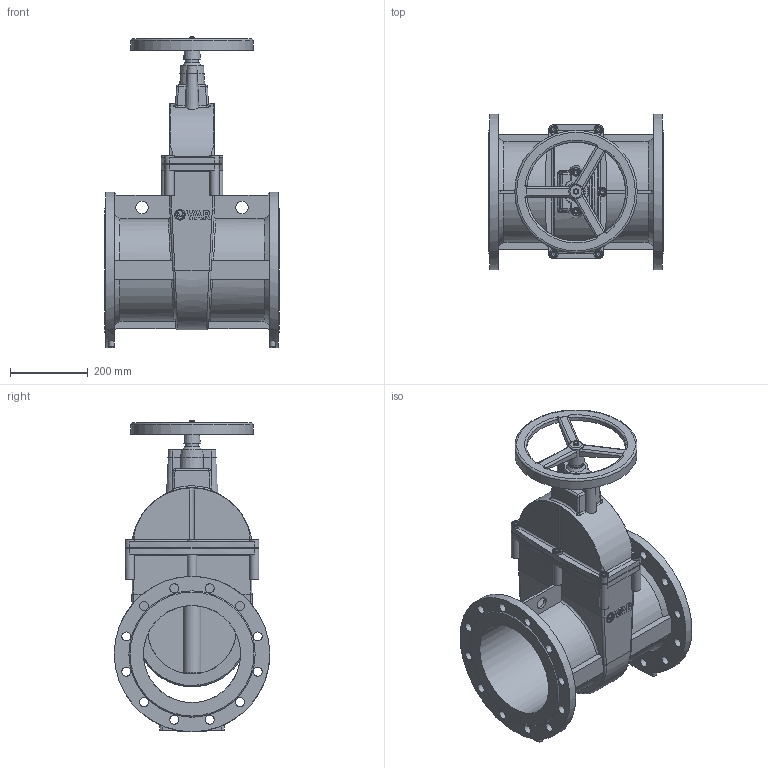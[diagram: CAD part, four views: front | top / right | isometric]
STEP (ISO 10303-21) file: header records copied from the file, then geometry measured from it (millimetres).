
FILE_DESCRIPTION(('STEP AP242'), '1');
FILE_NAME('青溻桄赅', '', ('UNSPECIFIED'), ('UNSPECIFIED'), 'C3D Converter', 'C3D Toolkit', '');
FILE_SCHEMA(('AP242_MANAGED_MODEL_BASED_3D_ENGINEERING_MIM_LF { 1 0 10303 442 1 1 4 }'));
Length unit declared in the file: millimetre
Assembly tree (17 placements, depth 2):
  (unnamed)
    (unnamed)
    (unnamed)
    (unnamed)
    (unnamed)
    (unnamed)  x2
    (unnamed)
    (unnamed)
    (unnamed)  x6
    (unnamed)  x2
    (unnamed)
Bounding box: 450 x 400 x 801.6 mm (x, y, z)
Volume: 13524784.7 mm3; surface area: 2550142.3 mm2
Topology: 20 solids, 20 shells, 963 faces, 2410 edges, 1539 vertices
Faces by surface type: plane 466, cylinder 203, extrusion 135, bspline 69, cone 69, torus 21
Full cylindrical faces by diameter (mm): 6 x3, 10 x8, 12 x30, 18 x16, 23 x24, 27.54 x1, 32 x2, 33 x7, 47.667 x4, 228 x2, 250 x4, 255 x1, 265 x1, 285.2 x4, 294 x1, 305 x1, 315 x1, 400 x2
Entity records: 43802 total; most frequent: CARTESIAN_POINT 22330, ORIENTED_EDGE 3920, DIRECTION 3136, EDGE_CURVE 1960, VERTEX_POINT 1345, EDGE_LOOP 1105, VECTOR 1054, AXIS2_PLACEMENT_3D 1041
